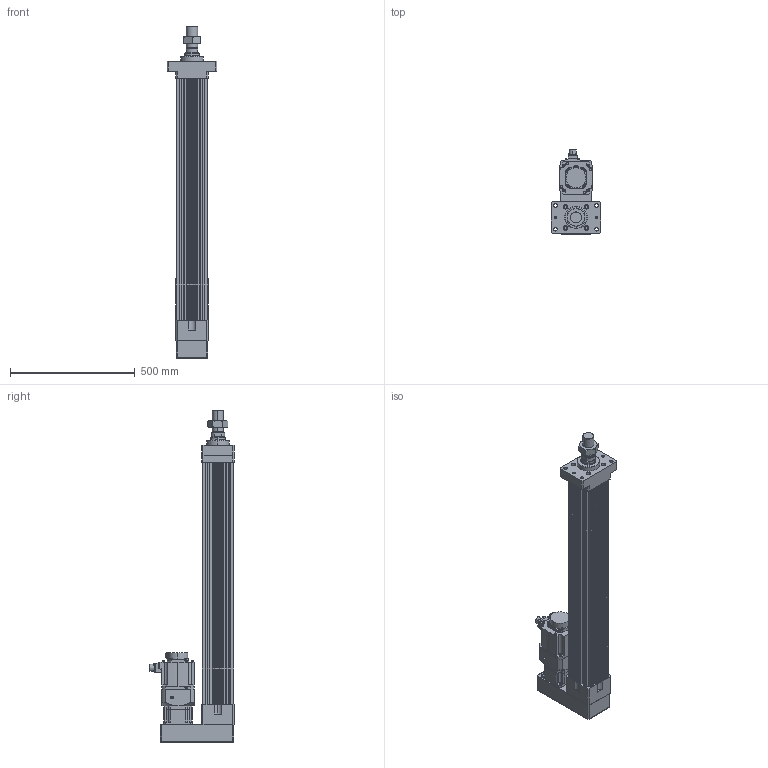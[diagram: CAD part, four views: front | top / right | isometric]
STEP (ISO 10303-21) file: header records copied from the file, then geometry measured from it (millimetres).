
FILE_DESCRIPTION (( 'STEP AP203' ), '1' );
FILE_NAME ('HES130NS(FS)(HS)-P750-W015G00-M-FMA.STEP', '2023-01-29T05:02:41', ( 'tms' ), ( '' ), 'SwSTEP 2.0', 'SolidWorks 2013', '' );
FILE_SCHEMA (( 'CONFIG_CONTROL_DESIGN' ));
Length unit declared in the file: millimetre
Products named in the file (8): HES130 ROD M ST750; HES130NS(FS)(HS)-P750-W015G00-M-FMA; HG-SR152; AB1151; HES130-P750-G120-FMA; AB115-003[HG-SR152]; M45X1.5P; P0401400706
Assembly tree (7 placements, depth 3):
  HES130NS(FS)(HS)-P750-W015G00-M-FMA
    HES130-P750-G120-FMA
    HES130 ROD M ST750
    M45X1.5P
    AB115-003[HG-SR152]
      AB1151
      P0401400706
    HG-SR152
Bounding box: 200 x 337.49 x 1332 mm (x, y, z)
Volume: 14453611.2 mm3; surface area: 1795215.7 mm2
Topology: 4 solids, 11 shells, 1082 faces, 2768 edges, 1799 vertices
Faces by surface type: cylinder 513, plane 489, cone 68, bspline 8, torus 4
Entity records: 34626 total; most frequent: CARTESIAN_POINT 6632, DIRECTION 5993, ORIENTED_EDGE 5484, EDGE_CURVE 2752, AXIS2_PLACEMENT_3D 2228, VERTEX_POINT 1799, LINE 1537, VECTOR 1537
